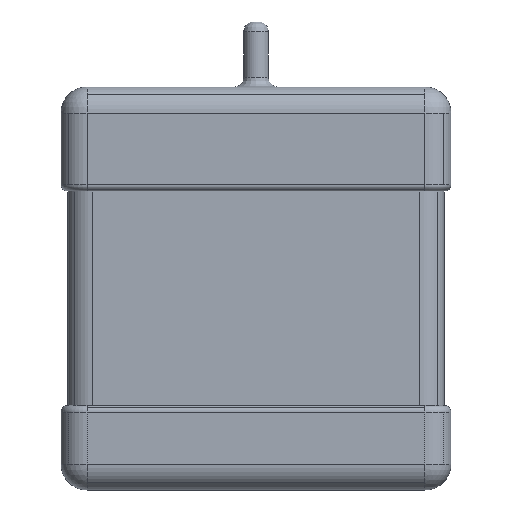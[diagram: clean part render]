
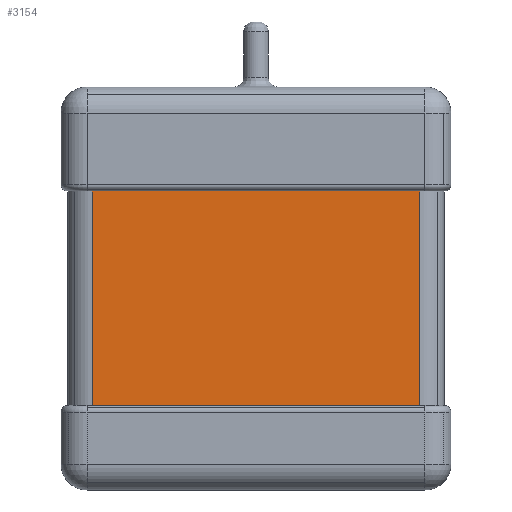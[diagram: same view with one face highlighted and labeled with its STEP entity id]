
A CAD part, front view. The second image highlights one B-rep face of the part: STEP entity #3154.
In plain terms, the highlighted planar face has unit normal (0, -1, 0).
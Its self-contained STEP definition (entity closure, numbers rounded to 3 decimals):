
#151=CARTESIAN_POINT('',(0.287,-0.047,-4.22));
#152=VERTEX_POINT('',#151);
#160=CARTESIAN_POINT('',(0.287,-0.047,-0.92));
#161=VERTEX_POINT('',#160);
#162=CARTESIAN_POINT('',(0.287,-0.047,-4.22));
#163=DIRECTION('',(0.0,0.,1.0));
#164=VECTOR('',#163,3.3);
#165=LINE('',#162,#164);
#166=EDGE_CURVE('',#152,#161,#165,.T.);
#1068=CARTESIAN_POINT('',(5.325,-0.047,-4.22));
#1069=VERTEX_POINT('',#1068);
#1076=CARTESIAN_POINT('',(5.325,-0.047,-4.22));
#1077=DIRECTION('',(-1.0,0.0,0.0));
#1078=VECTOR('',#1077,5.038);
#1079=LINE('',#1076,#1078);
#1080=EDGE_CURVE('',#1069,#152,#1079,.T.);
#1909=CARTESIAN_POINT('',(5.325,-0.047,-0.92));
#1910=VERTEX_POINT('',#1909);
#1911=CARTESIAN_POINT('',(5.325,-0.047,-0.92));
#1912=DIRECTION('',(-1.0,0.0,0.0));
#1913=VECTOR('',#1912,5.038);
#1914=LINE('',#1911,#1913);
#1915=EDGE_CURVE('',#1910,#161,#1914,.T.);
#3040=CARTESIAN_POINT('',(5.325,-0.047,-0.92));
#3041=DIRECTION('',(0.0,0.,-1.0));
#3042=VECTOR('',#3041,3.3);
#3043=LINE('',#3040,#3042);
#3044=EDGE_CURVE('',#1910,#1069,#3043,.T.);
#3143=CARTESIAN_POINT('',(5.706,-0.047,-4.22));
#3144=DIRECTION('',(0.0,-1.0,0.0));
#3145=DIRECTION('',(0.0,0.0,-1.0));
#3146=AXIS2_PLACEMENT_3D('',#3143,#3144,#3145);
#3147=PLANE('',#3146);
#3148=ORIENTED_EDGE('',*,*,#3044,.F.);
#3149=ORIENTED_EDGE('',*,*,#1915,.T.);
#3150=ORIENTED_EDGE('',*,*,#166,.F.);
#3151=ORIENTED_EDGE('',*,*,#1080,.F.);
#3152=EDGE_LOOP('',(#3148,#3149,#3150,#3151));
#3153=FACE_OUTER_BOUND('',#3152,.T.);
#3154=ADVANCED_FACE('',(#3153),#3147,.T.);
